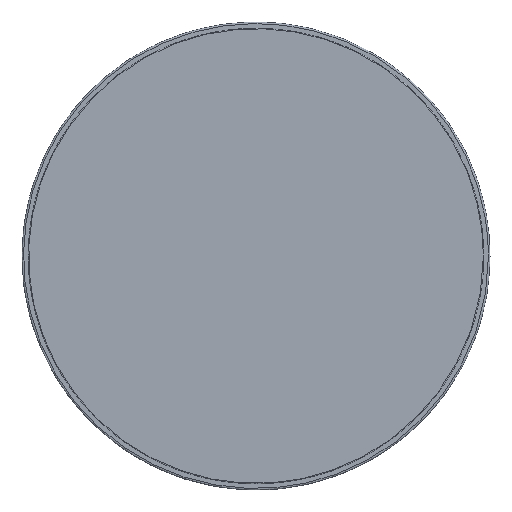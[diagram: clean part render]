
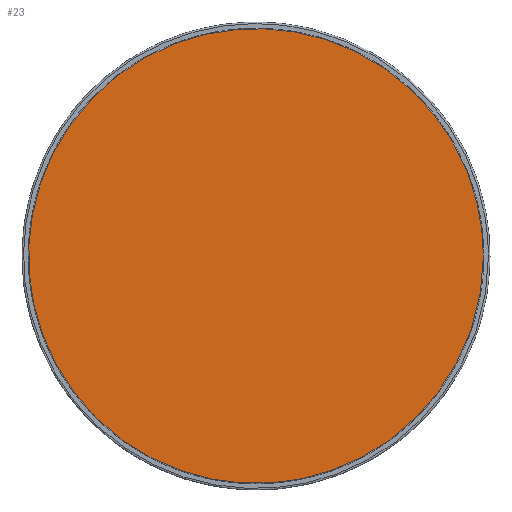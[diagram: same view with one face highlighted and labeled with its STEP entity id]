
A CAD part, top view. The second image highlights one B-rep face of the part: STEP entity #23.
In plain terms, the highlighted planar face has unit normal (0, 0, 1).
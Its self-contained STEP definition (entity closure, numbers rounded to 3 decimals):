
#23=ADVANCED_FACE('',(#31),#97,.T.);
#31=FACE_OUTER_BOUND('',#41,.T.);
#41=EDGE_LOOP('',(#60));
#60=ORIENTED_EDGE('',*,*,#75,.F.);
#75=EDGE_CURVE('',#93,#93,#86,.T.);
#86=(
BOUNDED_CURVE()
B_SPLINE_CURVE(2,(#311,#312,#313,#314,#315,#316,#317,#318,#319),
 .UNSPECIFIED.,.T.,.F.)
B_SPLINE_CURVE_WITH_KNOTS((3,2,2,2,3),(0.,457.887,915.774,
1373.661,1831.548),.UNSPECIFIED.)
CURVE()
GEOMETRIC_REPRESENTATION_ITEM()
RATIONAL_B_SPLINE_CURVE((1.,0.707,1.,0.707,1.,0.707,
1.,0.707,1.))
REPRESENTATION_ITEM('')
);
#93=VERTEX_POINT('',#245);
#97=PLANE('',#125);
#125=AXIS2_PLACEMENT_3D('',#211,#132,$);
#132=DIRECTION('',(0.,0.,1.));
#211=CARTESIAN_POINT('',(-365.,365.,29.));
#245=CARTESIAN_POINT('',(291.5,0.,29.));
#311=CARTESIAN_POINT('',(291.5,0.,29.));
#312=CARTESIAN_POINT('',(291.5,-291.5,29.));
#313=CARTESIAN_POINT('',(0.,-291.5,29.));
#314=CARTESIAN_POINT('',(-291.5,-291.5,29.));
#315=CARTESIAN_POINT('',(-291.5,0.,29.));
#316=CARTESIAN_POINT('',(-291.5,291.5,29.));
#317=CARTESIAN_POINT('',(0.,291.5,29.));
#318=CARTESIAN_POINT('',(291.5,291.5,29.));
#319=CARTESIAN_POINT('',(291.5,0.,29.));
